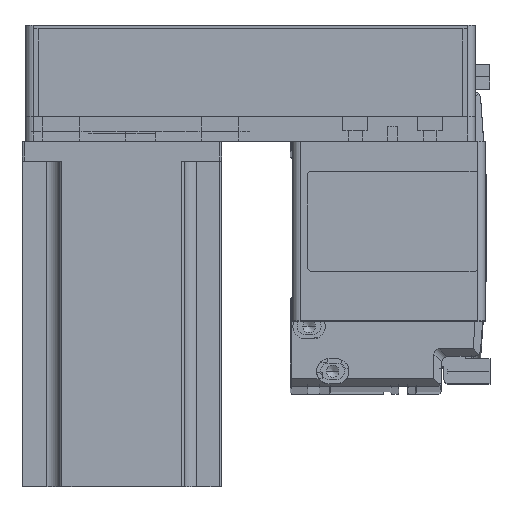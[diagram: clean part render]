
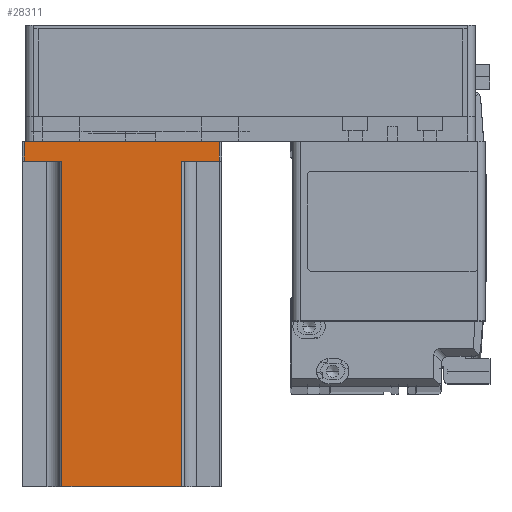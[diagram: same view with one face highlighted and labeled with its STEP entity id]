
A CAD part, top view. The second image highlights one B-rep face of the part: STEP entity #28311.
In plain terms, the highlighted planar face has unit normal (0, 0, 1) as drawn and (0, 1, 0) by its records, which use the part's own axes.
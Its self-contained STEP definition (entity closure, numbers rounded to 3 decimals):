
#622 = DIRECTION ( 'NONE',  ( -1., 0., 0. ) ) ;
#1022 = DIRECTION ( 'NONE',  ( 0., 0., -1. ) ) ;
#1978 = LINE ( 'NONE', #55928, #49295 ) ;
#3321 = ORIENTED_EDGE ( 'NONE', *, *, #38739, .T. ) ;
#3692 = ORIENTED_EDGE ( 'NONE', *, *, #5549, .T. ) ;
#3811 = VERTEX_POINT ( 'NONE', #34758 ) ;
#5549 = EDGE_CURVE ( 'NONE', #20423, #22738, #27823, .T. ) ;
#6409 = ORIENTED_EDGE ( 'NONE', *, *, #23177, .T. ) ;
#7493 = EDGE_CURVE ( 'NONE', #22738, #37383, #9572, .T. ) ;
#8686 = DIRECTION ( 'NONE',  ( 0., 0., -1. ) ) ;
#9421 = DIRECTION ( 'NONE',  ( 0., 0., 1. ) ) ;
#9545 = VERTEX_POINT ( 'NONE', #58899 ) ;
#9572 = LINE ( 'NONE', #18609, #33935 ) ;
#11033 = CARTESIAN_POINT ( 'NONE',  ( 40., 40., 138.3 ) ) ;
#11889 = CARTESIAN_POINT ( 'NONE',  ( -39., 40., 8. ) ) ;
#12004 = VECTOR ( 'NONE', #622, 1000. ) ;
#13509 = DIRECTION ( 'NONE',  ( 1., 0., 0. ) ) ;
#13850 = CARTESIAN_POINT ( 'NONE',  ( -39., 40., 0. ) ) ;
#14631 = LINE ( 'NONE', #49764, #26800 ) ;
#14928 = CARTESIAN_POINT ( 'NONE',  ( 40., 40., 0. ) ) ;
#18609 = CARTESIAN_POINT ( 'NONE',  ( -39., 40., 138.3 ) ) ;
#19526 = DIRECTION ( 'NONE',  ( -1., 0., 0. ) ) ;
#19674 = VECTOR ( 'NONE', #54672, 1000. ) ;
#19892 = EDGE_CURVE ( 'NONE', #33955, #3811, #1978, .T. ) ;
#20423 = VERTEX_POINT ( 'NONE', #36396 ) ;
#22711 = LINE ( 'NONE', #32670, #12004 ) ;
#22738 = VERTEX_POINT ( 'NONE', #13850 ) ;
#22793 = EDGE_CURVE ( 'NONE', #38162, #3811, #22711, .T. ) ;
#23177 = EDGE_CURVE ( 'NONE', #37383, #54622, #29890, .T. ) ;
#24381 = CARTESIAN_POINT ( 'NONE',  ( 39., 40., 8. ) ) ;
#24822 = DIRECTION ( 'NONE',  ( -1., 0., 0. ) ) ;
#26800 = VECTOR ( 'NONE', #8686, 1000. ) ;
#26878 = ORIENTED_EDGE ( 'NONE', *, *, #22793, .F. ) ;
#27199 = DIRECTION ( 'NONE',  ( 0., -1., 0. ) ) ;
#27823 = LINE ( 'NONE', #14928, #38618 ) ;
#28311 = ADVANCED_FACE ( 'NONE', ( #42148 ), #36291, .F. ) ;
#29890 = LINE ( 'NONE', #40980, #54266 ) ;
#30080 = EDGE_LOOP ( 'NONE', ( #6409, #3321, #54978, #51880, #26878, #50949, #3692, #53521 ) ) ;
#31158 = AXIS2_PLACEMENT_3D ( 'NONE', #54691, #27199, #59293 ) ;
#31910 = LINE ( 'NONE', #45655, #19674 ) ;
#32670 = CARTESIAN_POINT ( 'NONE',  ( 25., 40., 8. ) ) ;
#33935 = VECTOR ( 'NONE', #9421, 1000. ) ;
#33955 = VERTEX_POINT ( 'NONE', #47296 ) ;
#34758 = CARTESIAN_POINT ( 'NONE',  ( 24., 40., 8. ) ) ;
#35467 = EDGE_CURVE ( 'NONE', #38162, #20423, #14631, .T. ) ;
#36291 = PLANE ( 'NONE',  #31158 ) ;
#36396 = CARTESIAN_POINT ( 'NONE',  ( 39., 40., 0. ) ) ;
#37383 = VERTEX_POINT ( 'NONE', #11889 ) ;
#38162 = VERTEX_POINT ( 'NONE', #24381 ) ;
#38618 = VECTOR ( 'NONE', #19526, 1000. ) ;
#38739 = EDGE_CURVE ( 'NONE', #54622, #9545, #31910, .T. ) ;
#40980 = CARTESIAN_POINT ( 'NONE',  ( -25., 40., 8. ) ) ;
#42148 = FACE_OUTER_BOUND ( 'NONE', #30080, .T. ) ;
#43518 = VECTOR ( 'NONE', #24822, 1000. ) ;
#45655 = CARTESIAN_POINT ( 'NONE',  ( -24., 40., 138.3 ) ) ;
#46968 = CARTESIAN_POINT ( 'NONE',  ( -24., 40., 8. ) ) ;
#47296 = CARTESIAN_POINT ( 'NONE',  ( 24., 40., 138.3 ) ) ;
#49295 = VECTOR ( 'NONE', #1022, 1000. ) ;
#49764 = CARTESIAN_POINT ( 'NONE',  ( 39., 40., 138.3 ) ) ;
#50949 = ORIENTED_EDGE ( 'NONE', *, *, #35467, .T. ) ;
#51880 = ORIENTED_EDGE ( 'NONE', *, *, #19892, .T. ) ;
#52202 = EDGE_CURVE ( 'NONE', #33955, #9545, #55697, .T. ) ;
#53521 = ORIENTED_EDGE ( 'NONE', *, *, #7493, .T. ) ;
#54266 = VECTOR ( 'NONE', #13509, 1000. ) ;
#54622 = VERTEX_POINT ( 'NONE', #46968 ) ;
#54672 = DIRECTION ( 'NONE',  ( 0., 0., 1. ) ) ;
#54691 = CARTESIAN_POINT ( 'NONE',  ( 40., 40., 138.3 ) ) ;
#54978 = ORIENTED_EDGE ( 'NONE', *, *, #52202, .F. ) ;
#55697 = LINE ( 'NONE', #11033, #43518 ) ;
#55928 = CARTESIAN_POINT ( 'NONE',  ( 24., 40., 138.3 ) ) ;
#58899 = CARTESIAN_POINT ( 'NONE',  ( -24., 40., 138.3 ) ) ;
#59293 = DIRECTION ( 'NONE',  ( 1., 0., 0. ) ) ;
